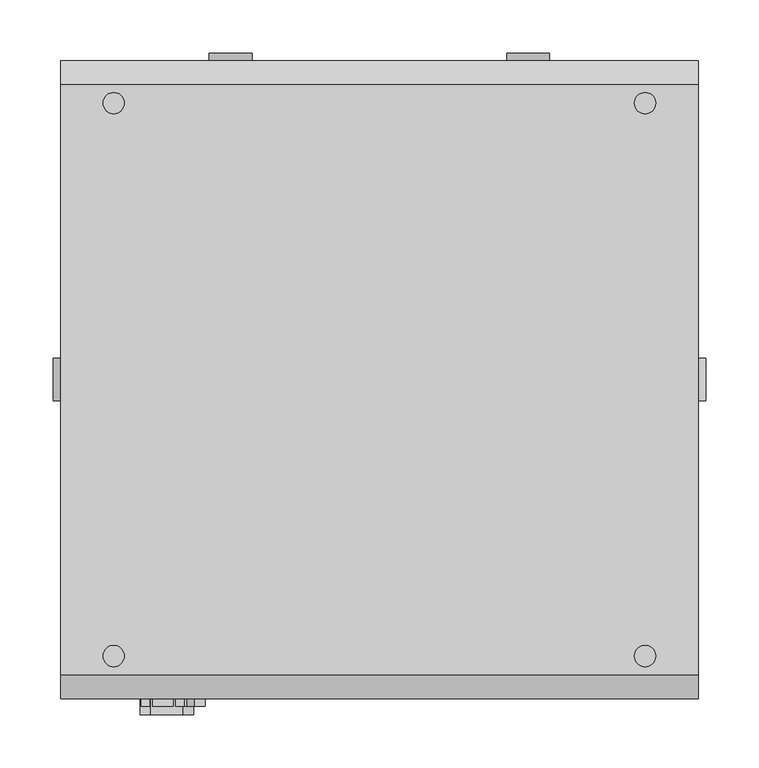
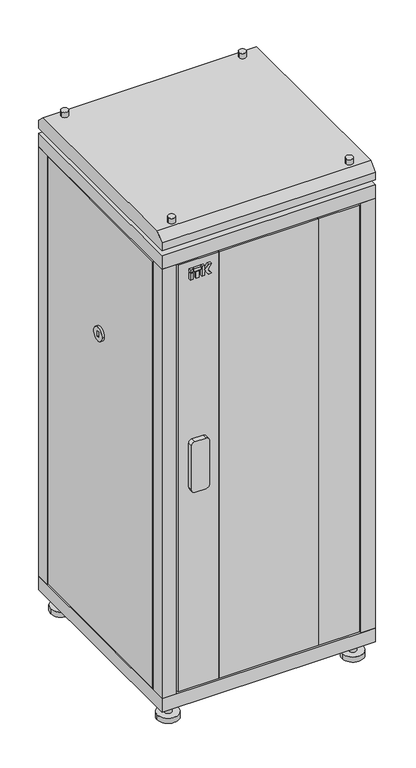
"""IFC4 building model written with IfcOpenShell, lengths in millimetres: proxy geometry, Шкафы ITK серия N_05 : LN05-28U66-G."""

from ifc_helpers import new_model, si_unit, point, frame, frame_2d, origin, origin_with_axes, place, context, project, spatial, polyline, circle_curve, trimmed, segment, composite_curve, outline, extrude, faceted_brep, source, transform, mapped, element, save
from ifc_brep_helpers import plane_surface, cylinder_surface, advanced_brep


def electrical_fixtures_15804688(model_context):
    return source(origin(), model_context, "Body", "SolidModel", [
        extrude(outline(polyline([(-215.9746193, -307.0), (-224.197592, -307.0), (-224.197592, -300.0), (-215.9746193, -300.0), (-215.9746193, -307.0)])), frame((0.0, 0.0, 1312.0), z_axis=(0.0, 0.0, 1.0), x_axis=(1.0, 0.0, 0.0)), (0.0, 0.0, 1.0), 18.8087618),
        extrude(outline(polyline([(-199.9605777, -307.0), (-207.7053315, -307.0), (-207.7053315, -300.0), (-199.9605777, -300.0), (-199.9605777, -307.0)])), frame((0.0, 0.0, 1312.0), z_axis=(0.0, 0.0, 1.0), x_axis=(1.0, 0.0, 0.0)), (0.0, 0.0, 1.0), 18.8087618),
        extrude(outline(polyline([(-215.9746193, -307.0), (-224.197592, -307.0), (-224.197592, -300.0), (-215.9746193, -300.0), (-215.9746193, -307.0)])), frame((0.0, 0.0, 1333.4305892), z_axis=(0.0, 0.0, 1.0), x_axis=(1.0, 0.0, 0.0)), (0.0, 0.0, 1.0), 7.9794747),
        extrude(outline(polyline([(1312.0, -191.5184175), (1312.0, -183.7669278), (1323.0271455, -183.7669278), (1323.0271455, -180.8031229), (1312.0, -173.6420108), (1312.0, -164.197592), (1326.7278745, -174.8980192), (1341.410064, -164.197592), (1341.410064, -173.6420108), (1330.3829184, -180.8031229), (1330.3829184, -183.7669278), (1341.410064, -183.7669278), (1341.410064, -191.5184175), (1312.0, -191.5184175)])), frame((0.0, -307.0, 0.0), z_axis=(0.0, 1.0, 0.0), x_axis=(0.0, 0.0, 1.0)), (0.0, 0.0, 1.0), 7.0),
        extrude(outline(polyline([(-194.0851324, -307.0), (-213.5807768, -307.0), (-213.5807768, -300.0), (-194.0851324, -300.0), (-194.0851324, -307.0)])), frame((0.0, 0.0, 1333.4305892), z_axis=(0.0, 0.0, 1.0), x_axis=(1.0, 0.0, 0.0)), (0.0, 0.0, 1.0), 7.9794747),
        extrude(outline(composite_curve([segment(polyline([(833.5, -185.0), (833.5, -215.0)]), True, "CONTINUOUS"), segment(trimmed(circle_curve(frame_2d((823.5, -215.0)), 10.0), [point((833.5, -215.0))], [point((823.5, -225.0))], False, "CARTESIAN"), True, "CONTINUOUS"), segment(polyline([(823.5, -225.0), (693.5, -225.0)]), True, "CONTINUOUS"), segment(trimmed(circle_curve(frame_2d((693.5, -215.0)), 10.0), [point((693.5, -225.0))], [point((683.5, -215.0))], False, "CARTESIAN"), True, "CONTINUOUS"), segment(polyline([(683.5, -215.0), (683.5, -185.0)]), True, "CONTINUOUS"), segment(trimmed(circle_curve(frame_2d((693.5, -185.0)), 10.0), [point((683.5, -185.0))], [point((693.5, -175.0))], False, "CARTESIAN"), True, "CONTINUOUS"), segment(polyline([(693.5, -175.0), (823.5, -175.0)]), True, "CONTINUOUS"), segment(trimmed(circle_curve(frame_2d((823.5, -185.0)), 10.0), [point((823.5, -175.0))], [point((833.5, -185.0))], False, "CARTESIAN"), True, "CONTINUOUS")], self_intersect=False)), frame((0.0, -315.0, 0.0), z_axis=(0.0, 1.0, 0.0), x_axis=(0.0, 0.0, 1.0)), (0.0, 0.0, 1.0), 15.0),
        extrude(outline(polyline([(140.0, -280.0), (140.0, -300.0), (-140.0, -300.0), (-140.0, -280.0), (140.0, -280.0)])), frame((0.0, 0.0, 95.0), z_axis=(0.0, 0.0, 1.0), x_axis=(1.0, 0.0, 0.0)), (0.0, 0.0, 1.0), 1267.0),
        extrude(outline(polyline([(255.0, -280.0), (255.0, -300.0), (140.0, -300.0), (140.0, -280.0), (235.0, -280.0), (235.0, -265.0), (245.0, -265.0), (245.0, -280.0), (255.0, -280.0)])), frame((0.0, 0.0, 95.0), z_axis=(0.0, 0.0, 1.0), x_axis=(1.0, 0.0, 0.0)), (0.0, 0.0, 1.0), 1267.0),
        extrude(outline(polyline([(-140.0, -300.0), (-255.0, -300.0), (-255.0, -280.0), (-245.0, -280.0), (-245.0, -265.0), (-235.0, -265.0), (-235.0, -280.0), (-140.0, -280.0), (-140.0, -300.0)])), frame((0.0, 0.0, 95.0), z_axis=(0.0, 0.0, 1.0), x_axis=(1.0, 0.0, 0.0)), (0.0, 0.0, 1.0), 1267.0),
        extrude(outline(composite_curve([segment(trimmed(circle_curve(frame_2d((-260.0, 260.0)), 10.0), [point((-250.0, 260.0))], [point((-270.0, 260.0))], False, "CARTESIAN"), True, "CONTINUOUS"), segment(trimmed(circle_curve(frame_2d((-260.0, 260.0)), 10.0), [point((-270.0, 260.0))], [point((-250.0, 260.0))], False, "CARTESIAN"), True, "CONTINUOUS")], self_intersect=False)), frame((0.0, 0.0, 15.0), z_axis=(0.0, 0.0, 1.0), x_axis=(1.0, 0.0, 0.0)), (0.0, 0.0, 1.0), 35.0),
        extrude(outline(composite_curve([segment(trimmed(circle_curve(frame_2d((260.0, 260.0)), 10.0), [point((270.0, 260.0))], [point((250.0, 260.0))], False, "CARTESIAN"), True, "CONTINUOUS"), segment(trimmed(circle_curve(frame_2d((260.0, 260.0)), 10.0), [point((250.0, 260.0))], [point((270.0, 260.0))], False, "CARTESIAN"), True, "CONTINUOUS")], self_intersect=False)), frame((0.0, 0.0, 15.0), z_axis=(0.0, 0.0, 1.0), x_axis=(1.0, 0.0, 0.0)), (0.0, 0.0, 1.0), 35.0),
        extrude(outline(composite_curve([segment(trimmed(circle_curve(frame_2d((-260.0, -260.0)), 10.0), [point((-250.0, -260.0))], [point((-270.0, -260.0))], False, "CARTESIAN"), True, "CONTINUOUS"), segment(trimmed(circle_curve(frame_2d((-260.0, -260.0)), 10.0), [point((-270.0, -260.0))], [point((-250.0, -260.0))], False, "CARTESIAN"), True, "CONTINUOUS")], self_intersect=False)), frame((0.0, 0.0, 15.0), z_axis=(0.0, 0.0, 1.0), x_axis=(1.0, 0.0, 0.0)), (0.0, 0.0, 1.0), 35.0),
        extrude(outline(composite_curve([segment(trimmed(circle_curve(frame_2d((260.0, -260.0)), 10.0), [point((270.0, -260.0))], [point((250.0, -260.0))], False, "CARTESIAN"), True, "CONTINUOUS"), segment(trimmed(circle_curve(frame_2d((260.0, -260.0)), 10.0), [point((250.0, -260.0))], [point((270.0, -260.0))], False, "CARTESIAN"), True, "CONTINUOUS")], self_intersect=False)), frame((0.0, 0.0, 15.0), z_axis=(0.0, 0.0, 1.0), x_axis=(1.0, 0.0, 0.0)), (0.0, 0.0, 1.0), 35.0),
        extrude(outline(composite_curve([segment(trimmed(circle_curve(frame_2d((-260.0, 260.0)), 30.0), [point((-230.0, 260.0))], [point((-290.0, 260.0))], False, "CARTESIAN"), True, "CONTINUOUS"), segment(trimmed(circle_curve(frame_2d((-260.0, 260.0)), 30.0), [point((-290.0, 260.0))], [point((-230.0, 260.0))], False, "CARTESIAN"), True, "CONTINUOUS")], self_intersect=False)), origin_with_axes(), (0.0, 0.0, 1.0), 15.0),
        extrude(outline(composite_curve([segment(trimmed(circle_curve(frame_2d((260.0, 260.0)), 30.0), [point((290.0, 260.0))], [point((230.0, 260.0))], False, "CARTESIAN"), True, "CONTINUOUS"), segment(trimmed(circle_curve(frame_2d((260.0, 260.0)), 30.0), [point((230.0, 260.0))], [point((290.0, 260.0))], False, "CARTESIAN"), True, "CONTINUOUS")], self_intersect=False)), origin_with_axes(), (0.0, 0.0, 1.0), 15.0),
        extrude(outline(composite_curve([segment(trimmed(circle_curve(frame_2d((-260.0, -260.0)), 30.0), [point((-230.0, -260.0))], [point((-290.0, -260.0))], False, "CARTESIAN"), True, "CONTINUOUS"), segment(trimmed(circle_curve(frame_2d((-260.0, -260.0)), 30.0), [point((-290.0, -260.0))], [point((-230.0, -260.0))], False, "CARTESIAN"), True, "CONTINUOUS")], self_intersect=False)), origin_with_axes(), (0.0, 0.0, 1.0), 15.0),
        extrude(outline(composite_curve([segment(trimmed(circle_curve(frame_2d((260.0, -260.0)), 30.0), [point((290.0, -260.0))], [point((230.0, -260.0))], False, "CARTESIAN"), True, "CONTINUOUS"), segment(trimmed(circle_curve(frame_2d((260.0, -260.0)), 30.0), [point((230.0, -260.0))], [point((290.0, -260.0))], False, "CARTESIAN"), True, "CONTINUOUS")], self_intersect=False)), origin_with_axes(), (0.0, 0.0, 1.0), 15.0),
        advanced_brep(
        [(260.0, 260.0, 1482.0), (240.0, 260.0, 1482.0), (260.0, -260.0, 1482.0), (240.0, -260.0, 1482.0), (-240.0, 260.0, 1482.0), (-260.0, 260.0, 1482.0), (-240.0, -260.0, 1482.0), (-260.0, -260.0, 1482.0), (260.0, 260.0, 1407.0), (240.0, 260.0, 1407.0), (260.0, -260.0, 1407.0), (240.0, -260.0, 1407.0), (-240.0, 260.0, 1407.0), (-260.0, 260.0, 1407.0), (-240.0, -260.0, 1407.0), (-260.0, -260.0, 1407.0), (260.0, 260.0, 1467.0), (240.0, 260.0, 1467.0), (240.0, 260.0, 1422.0), (260.0, 260.0, 1422.0), (260.0, -260.0, 1467.0), (240.0, -260.0, 1467.0), (240.0, -260.0, 1422.0), (260.0, -260.0, 1422.0), (-240.0, 260.0, 1467.0), (-260.0, 260.0, 1467.0), (-260.0, 260.0, 1422.0), (-240.0, 260.0, 1422.0), (-240.0, -260.0, 1467.0), (-260.0, -260.0, 1467.0), (-260.0, -260.0, 1422.0), (-240.0, -260.0, 1422.0), (300.0, 277.5, 1467.0), (300.0, -277.5, 1467.0), (300.0, -300.0, 1444.5), (300.0, -300.0, 1422.0), (300.0, 300.0, 1422.0), (300.0, 300.0, 1444.5), (-300.0, 277.5, 1467.0), (-300.0, 300.0, 1444.5), (-300.0, 300.0, 1422.0), (-300.0, -300.0, 1422.0), (-300.0, -300.0, 1444.5), (-300.0, -277.5, 1467.0)],
        [
            (0, 1, circle_curve(frame((250.0, 260.0, 1482.0), z_axis=(0.0, 0.0, 1.0), x_axis=(-1.0, 0.0, 0.0)), 10.0)),
            (1, 0, circle_curve(frame((250.0, 260.0, 1482.0), z_axis=(0.0, 0.0, 1.0), x_axis=(-1.0, 0.0, 0.0)), 10.0)),
            (2, 3, circle_curve(frame((250.0, -260.0, 1482.0), z_axis=(0.0, 0.0, 1.0), x_axis=(-1.0, 0.0, 0.0)), 10.0)),
            (3, 2, circle_curve(frame((250.0, -260.0, 1482.0), z_axis=(0.0, 0.0, 1.0), x_axis=(-1.0, 0.0, 0.0)), 10.0)),
            (4, 5, circle_curve(frame((-250.0, 260.0, 1482.0), z_axis=(0.0, 0.0, 1.0), x_axis=(-1.0, 0.0, 0.0)), 10.0)),
            (5, 4, circle_curve(frame((-250.0, 260.0, 1482.0), z_axis=(0.0, 0.0, 1.0), x_axis=(-1.0, 0.0, 0.0)), 10.0)),
            (6, 7, circle_curve(frame((-250.0, -260.0, 1482.0), z_axis=(0.0, 0.0, 1.0), x_axis=(-1.0, 0.0, 0.0)), 10.0)),
            (7, 6, circle_curve(frame((-250.0, -260.0, 1482.0), z_axis=(0.0, 0.0, 1.0), x_axis=(-1.0, 0.0, 0.0)), 10.0)),
            (8, 9, circle_curve(frame((250.0, 260.0, 1407.0), z_axis=(0.0, 0.0, -1.0), x_axis=(-1.0, 0.0, 0.0)), 10.0)),
            (9, 8, circle_curve(frame((250.0, 260.0, 1407.0), z_axis=(0.0, 0.0, -1.0), x_axis=(-1.0, 0.0, 0.0)), 10.0)),
            (10, 11, circle_curve(frame((250.0, -260.0, 1407.0), z_axis=(0.0, 0.0, -1.0), x_axis=(-1.0, 0.0, 0.0)), 10.0)),
            (11, 10, circle_curve(frame((250.0, -260.0, 1407.0), z_axis=(0.0, 0.0, -1.0), x_axis=(-1.0, 0.0, 0.0)), 10.0)),
            (12, 13, circle_curve(frame((-250.0, 260.0, 1407.0), z_axis=(0.0, 0.0, -1.0), x_axis=(-1.0, 0.0, 0.0)), 10.0)),
            (13, 12, circle_curve(frame((-250.0, 260.0, 1407.0), z_axis=(0.0, 0.0, -1.0), x_axis=(-1.0, 0.0, 0.0)), 10.0)),
            (14, 15, circle_curve(frame((-250.0, -260.0, 1407.0), z_axis=(0.0, 0.0, -1.0), x_axis=(-1.0, 0.0, 0.0)), 10.0)),
            (15, 14, circle_curve(frame((-250.0, -260.0, 1407.0), z_axis=(0.0, 0.0, -1.0), x_axis=(-1.0, 0.0, 0.0)), 10.0)),
            (0, 16),
            (16, 17, circle_curve(frame((250.0, 260.0, 1467.0), z_axis=(0.0, 0.0, 1.0), x_axis=(-1.0, 0.0, 0.0)), 10.0)),
            (17, 1),
            (9, 18),
            (18, 19, circle_curve(frame((250.0, 260.0, 1422.0), z_axis=(0.0, 0.0, -1.0), x_axis=(-1.0, 0.0, 0.0)), 10.0)),
            (19, 8),
            (17, 16, circle_curve(frame((250.0, 260.0, 1467.0), z_axis=(0.0, 0.0, 1.0), x_axis=(-1.0, 0.0, 0.0)), 10.0)),
            (19, 18, circle_curve(frame((250.0, 260.0, 1422.0), z_axis=(0.0, 0.0, -1.0), x_axis=(-1.0, 0.0, 0.0)), 10.0)),
            (2, 20),
            (20, 21, circle_curve(frame((250.0, -260.0, 1467.0), z_axis=(0.0, 0.0, 1.0), x_axis=(-1.0, 0.0, 0.0)), 10.0)),
            (21, 3),
            (11, 22),
            (22, 23, circle_curve(frame((250.0, -260.0, 1422.0), z_axis=(0.0, 0.0, -1.0), x_axis=(-1.0, 0.0, 0.0)), 10.0)),
            (23, 10),
            (21, 20, circle_curve(frame((250.0, -260.0, 1467.0), z_axis=(0.0, 0.0, 1.0), x_axis=(-1.0, 0.0, 0.0)), 10.0)),
            (23, 22, circle_curve(frame((250.0, -260.0, 1422.0), z_axis=(0.0, 0.0, -1.0), x_axis=(-1.0, 0.0, 0.0)), 10.0)),
            (4, 24),
            (24, 25, circle_curve(frame((-250.0, 260.0, 1467.0), z_axis=(0.0, 0.0, 1.0), x_axis=(-1.0, 0.0, 0.0)), 10.0)),
            (25, 5),
            (13, 26),
            (26, 27, circle_curve(frame((-250.0, 260.0, 1422.0), z_axis=(0.0, 0.0, -1.0), x_axis=(-1.0, 0.0, 0.0)), 10.0)),
            (27, 12),
            (25, 24, circle_curve(frame((-250.0, 260.0, 1467.0), z_axis=(0.0, 0.0, 1.0), x_axis=(-1.0, 0.0, 0.0)), 10.0)),
            (27, 26, circle_curve(frame((-250.0, 260.0, 1422.0), z_axis=(0.0, 0.0, -1.0), x_axis=(-1.0, 0.0, 0.0)), 10.0)),
            (6, 28),
            (28, 29, circle_curve(frame((-250.0, -260.0, 1467.0), z_axis=(0.0, 0.0, 1.0), x_axis=(-1.0, 0.0, 0.0)), 10.0)),
            (29, 7),
            (15, 30),
            (30, 31, circle_curve(frame((-250.0, -260.0, 1422.0), z_axis=(0.0, 0.0, -1.0), x_axis=(-1.0, 0.0, 0.0)), 10.0)),
            (31, 14),
            (29, 28, circle_curve(frame((-250.0, -260.0, 1467.0), z_axis=(0.0, 0.0, 1.0), x_axis=(-1.0, 0.0, 0.0)), 10.0)),
            (31, 30, circle_curve(frame((-250.0, -260.0, 1422.0), z_axis=(0.0, 0.0, -1.0), x_axis=(-1.0, 0.0, 0.0)), 10.0)),
            (32, 33),
            (33, 34),
            (34, 35),
            (35, 36),
            (36, 37),
            (37, 32),
            (38, 39),
            (39, 40),
            (40, 41),
            (41, 42),
            (42, 43),
            (43, 38),
            (32, 38),
            (43, 33),
            (42, 34),
            (41, 35),
            (40, 36),
            (39, 37),
        ],
        [
            plane_surface(frame((240.0, 260.0, 1482.0), z_axis=(0.0, 0.0, 1.0), x_axis=(0.0, -1.0, 0.0))),
            plane_surface(frame((240.0, 260.0, 1407.0), z_axis=(0.0, 0.0, -1.0), x_axis=(0.0, 1.0, 0.0))),
            cylinder_surface(frame((250.0, 260.0, 1407.0), z_axis=(0.0, 0.0, 1.0), x_axis=(-1.0, 0.0, 0.0)), 10.0),
            cylinder_surface(frame((250.0, -260.0, 1710.0), z_axis=(0.0, 0.0, 1.0), x_axis=(-1.0, 0.0, 0.0)), 10.0),
            cylinder_surface(frame((-250.0, 260.0, 1710.0), z_axis=(0.0, 0.0, 1.0), x_axis=(-1.0, 0.0, 0.0)), 10.0),
            cylinder_surface(frame((-250.0, -260.0, 1710.0), z_axis=(0.0, 0.0, 1.0), x_axis=(-1.0, 0.0, 0.0)), 10.0),
            plane_surface(frame((300.0, -277.5, 1467.0), z_axis=(1.0, 0.0, 0.0), x_axis=(0.0, -1.0, 0.0))),
            plane_surface(frame((-300.0, -277.5, 1467.0), z_axis=(-1.0, 0.0, 0.0), x_axis=(0.0, 1.0, 0.0))),
            plane_surface(frame((300.0, 277.5, 1467.0), z_axis=(0.0, 0.0, 1.0), x_axis=(-1.0, 0.0, 0.0))),
            plane_surface(frame((300.0, -277.5, 1467.0), z_axis=(0.0, -0.7071067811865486, 0.7071067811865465), x_axis=(-1.0, 0.0, 0.0))),
            plane_surface(frame((300.0, -300.0, 1444.5), z_axis=(0.0, -1.0, 0.0), x_axis=(-1.0, 0.0, 0.0))),
            plane_surface(frame((300.0, -300.0, 1422.0), z_axis=(0.0, 0.0, -1.0), x_axis=(-1.0, 0.0, 0.0))),
            plane_surface(frame((300.0, 300.0, 1422.0), z_axis=(0.0, 1.0, 0.0), x_axis=(-1.0, 0.0, 0.0))),
            plane_surface(frame((300.0, 300.0, 1444.5), z_axis=(0.0, 0.7071067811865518, 0.7071067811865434), x_axis=(-1.0, 0.0, 0.0))),
        ],
        [
            (0, [[1, 2]]),
            (0, [[3, 4]]),
            (0, [[5, 6]]),
            (0, [[7, 8]]),
            (1, [[9, 10]]),
            (1, [[11, 12]]),
            (1, [[13, 14]]),
            (1, [[15, 16]]),
            (2, [[-1, 17, 18, 19]]),
            (2, [[-10, 20, 21, 22]]),
            (2, [[-2, -19, 23, -17]]),
            (2, [[-9, -22, 24, -20]]),
            (3, [[-3, 25, 26, 27]]),
            (3, [[-12, 28, 29, 30]]),
            (3, [[-4, -27, 31, -25]]),
            (3, [[-11, -30, 32, -28]]),
            (4, [[-5, 33, 34, 35]]),
            (4, [[-14, 36, 37, 38]]),
            (4, [[-6, -35, 39, -33]]),
            (4, [[-13, -38, 40, -36]]),
            (5, [[-7, 41, 42, 43]]),
            (5, [[-16, 44, 45, 46]]),
            (5, [[-8, -43, 47, -41]]),
            (5, [[-15, -46, 48, -44]]),
            (6, [[49, 50, 51, 52, 53, 54]]),
            (7, [[55, 56, 57, 58, 59, 60]]),
            (8, [[-49, 61, -60, 62], [-18, -23], [-26, -31], [-34, -39], [-42, -47]]),
            (9, [[-50, -62, -59, 63]]),
            (10, [[-51, -63, -58, 64]]),
            (11, [[-52, -64, -57, 65], [-21, -24], [-29, -32], [-37, -40], [-45, -48]]),
            (12, [[-53, -65, -56, 66]]),
            (13, [[-54, -66, -55, -61]]),
        ],
    ),
        extrude(outline(polyline([(260.0, 260.0), (260.0, 245.0), (290.0, 245.0), (290.0, -245.0), (260.0, -245.0), (260.0, -260.0), (245.0, -260.0), (245.0, -280.0), (-245.0, -280.0), (-245.0, -260.0), (-260.0, -260.0), (-260.0, -245.0), (-290.0, -245.0), (-290.0, 245.0), (-260.0, 245.0), (-260.0, 260.0), (-245.0, 260.0), (-245.0, 290.0), (245.0, 290.0), (245.0, 260.0), (260.0, 260.0)])), frame((0.0, 0.0, 90.0), z_axis=(0.0, 0.0, 1.0), x_axis=(1.0, 0.0, 0.0)), (0.0, 0.0, 1.0), 5.0),
        extrude(outline(polyline([(260.0, 260.0), (260.0, 245.0), (290.0, 245.0), (290.0, -245.0), (260.0, -245.0), (260.0, -260.0), (245.0, -260.0), (245.0, -280.0), (-245.0, -280.0), (-245.0, -260.0), (-260.0, -260.0), (-260.0, -245.0), (-290.0, -245.0), (-290.0, 245.0), (-260.0, 245.0), (-260.0, 260.0), (-245.0, 260.0), (-245.0, 290.0), (245.0, 290.0), (245.0, 260.0), (260.0, 260.0)])), frame((0.0, 0.0, 1362.0), z_axis=(0.0, 0.0, 1.0), x_axis=(1.0, 0.0, 0.0)), (0.0, 0.0, 1.0), 5.0),
        extrude(outline(polyline([(300.0, -300.0), (-300.0, -300.0), (-300.0, 300.0), (300.0, 300.0), (300.0, -300.0)])), frame((0.0, 0.0, 1367.0), z_axis=(0.0, 0.0, 1.0), x_axis=(1.0, 0.0, 0.0)), (0.0, 0.0, 1.0), 40.0),
        extrude(outline(polyline([(300.0, -300.0), (-300.0, -300.0), (-300.0, 300.0), (300.0, 300.0), (300.0, -300.0)])), frame((0.0, 0.0, 50.0), z_axis=(0.0, 0.0, 1.0), x_axis=(1.0, 0.0, 0.0)), (0.0, 0.0, 1.0), 40.0),
        extrude(outline(composite_curve([segment(trimmed(circle_curve(frame_2d((728.5, 140.0)), 20.0), [point((728.5, 160.0))], [point((728.5, 120.0))], False, "CARTESIAN"), True, "CONTINUOUS"), segment(trimmed(circle_curve(frame_2d((728.5, 140.0)), 20.0), [point((728.5, 120.0))], [point((728.5, 160.0))], False, "CARTESIAN"), True, "CONTINUOUS")], self_intersect=False), holes=[polyline([(720.2814397, 137.0), (736.7185603, 137.0), (736.7185603, 143.0), (720.2814397, 143.0), (720.2814397, 137.0)])]), frame((0.0, 300.0, 0.0), z_axis=(0.0, 1.0, 0.0), x_axis=(0.0, 0.0, 1.0)), (0.0, 0.0, 1.0), 7.0),
        extrude(outline(composite_curve([segment(trimmed(circle_curve(frame_2d((728.5, -140.0)), 20.0), [point((728.5, -120.0))], [point((728.5, -160.0))], False, "CARTESIAN"), True, "CONTINUOUS"), segment(trimmed(circle_curve(frame_2d((728.5, -140.0)), 20.0), [point((728.5, -160.0))], [point((728.5, -120.0))], False, "CARTESIAN"), True, "CONTINUOUS")], self_intersect=False), holes=[polyline([(720.2814397, -143.0), (736.7185603, -143.0), (736.7185603, -137.0), (720.2814397, -137.0), (720.2814397, -143.0)])]), frame((0.0, 300.0, 0.0), z_axis=(0.0, 1.0, 0.0), x_axis=(0.0, 0.0, 1.0)), (0.0, 0.0, 1.0), 7.0),
        faceted_brep([(255.0, 300.0, 1362.0), (-255.0, 300.0, 1362.0), (-255.0, 270.0, 1362.0), (-245.0, 270.0, 1362.0), (-245.0, 290.0, 1362.0), (245.0, 290.0, 1362.0), (245.0, 270.0, 1362.0), (255.0, 270.0, 1362.0), (255.0, 300.0, 95.0), (255.0, 270.0, 95.0), (245.0, 270.0, 95.0), (245.0, 290.0, 95.0), (-245.0, 290.0, 95.0), (-245.0, 270.0, 95.0), (-255.0, 270.0, 95.0), (-255.0, 300.0, 95.0), (255.0, 300.0, 1189.5265979), (-255.0, 300.0, 1189.5265979), (175.0, 300.0, 1237.0), (175.0, 300.0, 1317.0), (-175.0, 300.0, 1317.0), (-175.0, 300.0, 1237.0), (-255.0, 300.0, 267.4734021), (255.0, 300.0, 267.4734021), (175.0, 300.0, 220.0), (-175.0, 300.0, 220.0), (-175.0, 300.0, 140.0), (175.0, 300.0, 140.0), (255.0, 300.0, 1184.4734021), (255.0, 300.0, 272.5265979), (-255.0, 300.0, 272.5265979), (-255.0, 300.0, 1184.4734021), (-170.0, 300.0, 215.0), (170.0, 300.0, 215.0), (170.0, 300.0, 145.0), (-170.0, 300.0, 145.0), (-170.0, 300.0, 1242.0), (-170.0, 300.0, 1312.0), (170.0, 300.0, 1312.0), (170.0, 300.0, 1242.0), (-255.0, 293.0, 1189.5265979), (-255.0, 293.0, 1184.4734021), (-255.0, 293.0, 272.5265979), (-255.0, 293.0, 267.4734021), (255.0, 293.0, 267.4734021), (255.0, 293.0, 272.5265979), (255.0, 293.0, 1184.4734021), (255.0, 293.0, 1189.5265979), (175.0, 293.0, 220.0), (175.0, 293.0, 140.0), (-175.0, 293.0, 140.0), (-175.0, 293.0, 220.0), (-170.0, 293.0, 215.0), (-170.0, 293.0, 145.0), (170.0, 293.0, 145.0), (170.0, 293.0, 215.0), (175.0, 293.0, 1237.0), (-175.0, 293.0, 1237.0), (-175.0, 293.0, 1317.0), (175.0, 293.0, 1317.0), (-170.0, 293.0, 1242.0), (170.0, 293.0, 1242.0), (170.0, 293.0, 1312.0), (-170.0, 293.0, 1312.0)], [[[0, 1, 2, 3, 4, 5, 6, 7]], [[8, 9, 10, 11, 12, 13, 14, 15]], [[1, 0, 16, 17], [18, 19, 20, 21]], [[8, 15, 22, 23], [24, 25, 26, 27]], [[28, 29, 30, 31]], [[32, 33, 34, 35]], [[36, 37, 38, 39]], [[2, 1, 17, 40, 41, 31, 30, 42, 43, 22, 15, 14]], [[3, 2, 14, 13]], [[4, 3, 13, 12]], [[5, 4, 12, 11]], [[6, 5, 11, 10]], [[7, 6, 10, 9]], [[0, 7, 9, 8, 23, 44, 45, 29, 28, 46, 47, 16]], [[44, 43, 42, 45]], [[48, 49, 50, 51], [52, 53, 54, 55]], [[46, 41, 40, 47]], [[56, 57, 58, 59], [60, 61, 62, 63]], [[45, 42, 30, 29]], [[43, 44, 23, 22]], [[48, 51, 25, 24]], [[51, 50, 26, 25]], [[50, 49, 27, 26]], [[49, 48, 24, 27]], [[52, 55, 33, 32]], [[55, 54, 34, 33]], [[54, 53, 35, 34]], [[53, 52, 32, 35]], [[47, 40, 17, 16]], [[41, 46, 28, 31]], [[56, 59, 19, 18]], [[59, 58, 20, 19]], [[58, 57, 21, 20]], [[57, 56, 18, 21]], [[60, 63, 37, 36]], [[63, 62, 38, 37]], [[62, 61, 39, 38]], [[61, 60, 36, 39]]]),
        extrude(outline(composite_curve([segment(trimmed(circle_curve(frame_2d((0.0, 994.6666667)), 20.0), [point((-20.0, 994.6666667))], [point((20.0, 994.6666667))], False, "CARTESIAN"), True, "CONTINUOUS"), segment(trimmed(circle_curve(frame_2d((0.0, 994.6666667)), 20.0), [point((20.0, 994.6666667))], [point((-20.0, 994.6666667))], False, "CARTESIAN"), True, "CONTINUOUS")], self_intersect=False), holes=[polyline([(3.0, 986.4481063), (3.0, 1002.885227), (-3.0, 1002.885227), (-3.0, 986.4481063), (3.0, 986.4481063)])]), frame((300.0, 0.0, 0.0), z_axis=(1.0, 0.0, 0.0), x_axis=(0.0, 1.0, 0.0)), (0.0, 0.0, 1.0), 7.0),
        extrude(outline(composite_curve([segment(trimmed(circle_curve(frame_2d((0.0, 994.6666667)), 20.0), [point((20.0, 994.6666667))], [point((-20.0, 994.6666667))], False, "CARTESIAN"), True, "CONTINUOUS"), segment(trimmed(circle_curve(frame_2d((0.0, 994.6666667)), 20.0), [point((-20.0, 994.6666667))], [point((20.0, 994.6666667))], False, "CARTESIAN"), True, "CONTINUOUS")], self_intersect=False), holes=[polyline([(-3.0, 986.4481063), (3.0, 986.4481063), (3.0, 1002.885227), (-3.0, 1002.885227), (-3.0, 986.4481063)])]), frame((-307.0, 0.0, 0.0), z_axis=(1.0, 0.0, 0.0), x_axis=(0.0, 1.0, 0.0)), (0.0, 0.0, 1.0), 7.0),
        extrude(outline(polyline([(-270.0, 255.0), (-270.0, 245.0), (-289.9803177, 245.0), (-289.9803177, -245.0), (-269.9803177, -245.0), (-269.9803177, -255.0), (-300.0, -255.0), (-300.0, 255.0), (-270.0, 255.0)])), frame((0.0, 0.0, 95.0), z_axis=(0.0, 0.0, 1.0), x_axis=(1.0, 0.0, 0.0)), (0.0, 0.0, 1.0), 1267.0),
        extrude(outline(polyline([(269.9803177, 255.0), (300.0, 255.0), (300.0, -255.0), (269.9803177, -255.0), (269.9803177, -245.0), (289.9803177, -245.0), (289.9803177, 245.0), (269.9803177, 245.0), (269.9803177, 255.0)])), frame((0.0, 0.0, 95.0), z_axis=(0.0, 0.0, 1.0), x_axis=(1.0, 0.0, 0.0)), (0.0, 0.0, 1.0), 1267.0),
        extrude(outline(polyline([(-270.0, -260.0), (-270.0, -245.0), (-260.0, -245.0), (-260.0, -260.0), (-245.0, -260.0), (-245.0, -280.0), (-260.0, -280.0), (-260.0, -300.0), (-300.0, -300.0), (-300.0, -260.0), (-270.0, -260.0)]), holes=[polyline([(-267.0, -263.0), (-297.0, -263.0), (-297.0, -297.0), (-263.0, -297.0), (-263.0, -277.0), (-248.0, -277.0), (-248.0, -263.0), (-263.0, -263.0), (-263.0, -248.0), (-267.0, -248.0), (-267.0, -263.0)])]), frame((0.0, 0.0, 90.0), z_axis=(0.0, 0.0, 1.0), x_axis=(1.0, 0.0, 0.0)), (0.0, 0.0, 1.0), 1277.0),
        extrude(outline(polyline([(270.0, -260.0), (300.0, -260.0), (300.0, -300.0), (260.0, -300.0), (260.0, -280.0), (245.0, -280.0), (245.0, -260.0), (260.0, -260.0), (260.0, -245.0), (270.0, -245.0), (270.0, -260.0)]), holes=[polyline([(297.0, -297.0), (297.0, -263.0), (267.0, -263.0), (267.0, -248.0), (263.0, -248.0), (263.0, -263.0), (248.0, -263.0), (248.0, -277.0), (263.0, -277.0), (263.0, -297.0), (297.0, -297.0)])]), frame((0.0, 0.0, 90.0), z_axis=(0.0, 0.0, 1.0), x_axis=(1.0, 0.0, 0.0)), (0.0, 0.0, 1.0), 1277.0),
        extrude(outline(polyline([(270.0, 260.0), (270.0, 245.0), (260.0, 245.0), (260.0, 260.0), (245.0, 260.0), (245.0, 270.0), (260.0, 270.0), (260.0, 300.0), (300.0, 300.0), (300.0, 260.0), (270.0, 260.0)]), holes=[polyline([(297.0, 263.0), (297.0, 297.0), (263.0, 297.0), (263.0, 267.0), (248.0, 267.0), (248.0, 263.0), (263.0, 263.0), (263.0, 248.0), (267.0, 248.0), (267.0, 263.0), (297.0, 263.0)])]), frame((0.0, 0.0, 90.0), z_axis=(0.0, 0.0, 1.0), x_axis=(1.0, 0.0, 0.0)), (0.0, 0.0, 1.0), 1277.0),
        extrude(outline(polyline([(-270.0, 260.0), (-300.0, 260.0), (-300.0, 300.0), (-260.0, 300.0), (-260.0, 270.0), (-245.0, 270.0), (-245.0, 260.0), (-260.0, 260.0), (-260.0, 245.0), (-270.0, 245.0), (-270.0, 260.0)]), holes=[polyline([(-297.0, 297.0), (-297.0, 263.0), (-267.0, 263.0), (-267.0, 248.0), (-263.0, 248.0), (-263.0, 263.0), (-248.0, 263.0), (-248.0, 267.0), (-263.0, 267.0), (-263.0, 297.0), (-297.0, 297.0)])]), frame((0.0, 0.0, 90.0), z_axis=(0.0, 0.0, 1.0), x_axis=(1.0, 0.0, 0.0)), (0.0, 0.0, 1.0), 1277.0),
    ])


if __name__ == "__main__":
    model = new_model("IFC4")
    model_context = context("Model", 3, world=origin())
    ifc_project = project(units=[si_unit("LENGTHUNIT", "METRE", prefix="MILLI")], contexts=[model_context])
    site = spatial("IfcSite", under=ifc_project)
    building = spatial("IfcBuilding", under=site)
    placement = place(None, origin())
    electrical_fixtures_shape = electrical_fixtures_15804688(model_context)
    element("IfcBuildingElementProxy", 1, Name="Шкафы ITK серия N_05 : LN05-28U66-G", ObjectType="Шкафы ITK серия N_05 : LN05-28U66-G", at=placement, inside=building, context=model_context, shape_type="MappedRepresentation", body=[
        mapped(electrical_fixtures_shape, transform((0.0, 0.0, 0.0), x_axis=(1.0, 0.0, 0.0), y_axis=(0.0, 1.0, 0.0), z_axis=(0.0, 0.0, 1.0))),
    ])
    save(model, "model.ifc")
